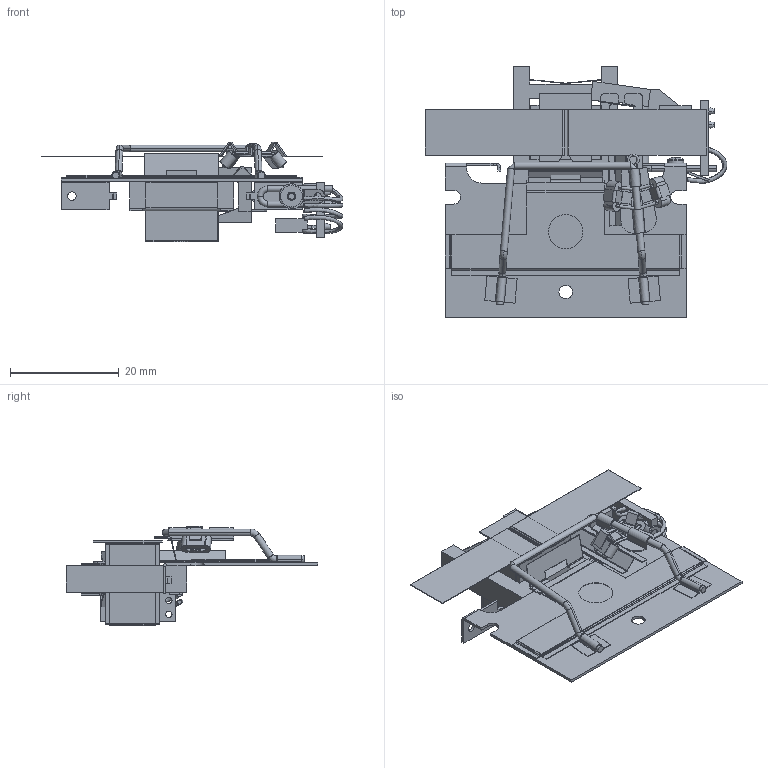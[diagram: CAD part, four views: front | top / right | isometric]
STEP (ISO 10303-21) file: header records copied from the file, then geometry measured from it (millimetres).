
FILE_DESCRIPTION (( 'STEP AP214' ), '1' );
FILE_NAME ('XRS6 STD dumb.STEP', '2013-07-17T19:02:56', ( 'helen' ), ( 'Microsoft' ), 'SwSTEP 2.0', 'SolidWorks 2010', '' );
FILE_SCHEMA (( 'AUTOMOTIVE_DESIGN' ));
Length unit declared in the file: inch
Products named in the file (1): XRS6 STD dumb
Bounding box: 55.62 x 46.41 x 18.3 mm (x, y, z)
Volume: 4688.9 mm3; surface area: 10971.3 mm2
Topology: 20 solids, 20 shells, 866 faces, 2206 edges, 1365 vertices
Faces by surface type: plane 511, cylinder 237, cone 66, torus 40, bspline 10, sphere 2
Entity records: 39063 total; most frequent: CARTESIAN_POINT 6316, DIRECTION 4502, ORIENTED_EDGE 4396, EDGE_CURVE 2198, AXIS2_PLACEMENT_3D 1559, VECTOR 1384, LINE 1384, VERTEX_POINT 1365
